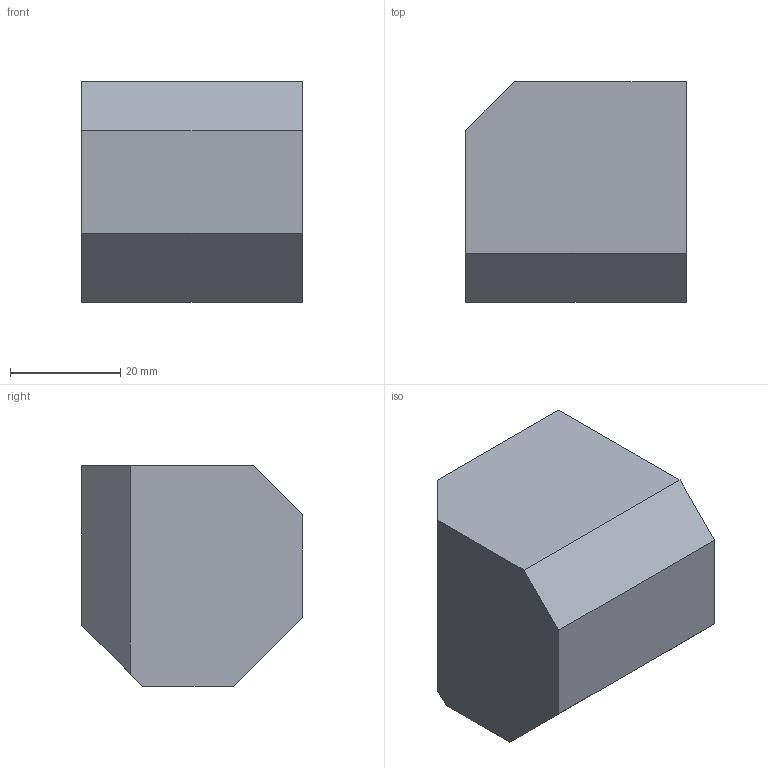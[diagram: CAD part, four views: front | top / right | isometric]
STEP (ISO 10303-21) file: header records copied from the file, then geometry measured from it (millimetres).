
FILE_DESCRIPTION(('Open CASCADE Model'),'2;1');
FILE_NAME('Open CASCADE Shape Model','2026-10-26T07:39:46',('Author'),( 'Open CASCADE'),'Open CASCADE STEP processor 7.9','Open CASCADE 7.9' ,'Unknown');
FILE_SCHEMA(('AUTOMOTIVE_DESIGN { 1 0 10303 214 1 1 1 1 }'));
Length unit declared in the file: millimetre
Products named in the file (1): Open CASCADE STEP translator 7.9 1
Bounding box: 40 x 40 x 40 mm (x, y, z)
Volume: 53642.9 mm3; surface area: 9229.8 mm2
Topology: 1 solids, 1 shells, 15 faces, 36 edges, 24 vertices
Faces by surface type: plane 15
Entity records: 908 total; most frequent: CARTESIAN_POINT 148, DIRECTION 140, LINE 108, VECTOR 108, ORIENTED_EDGE 72, PCURVE 72, DEFINITIONAL_REPRESENTATION 72, EDGE_CURVE 36
